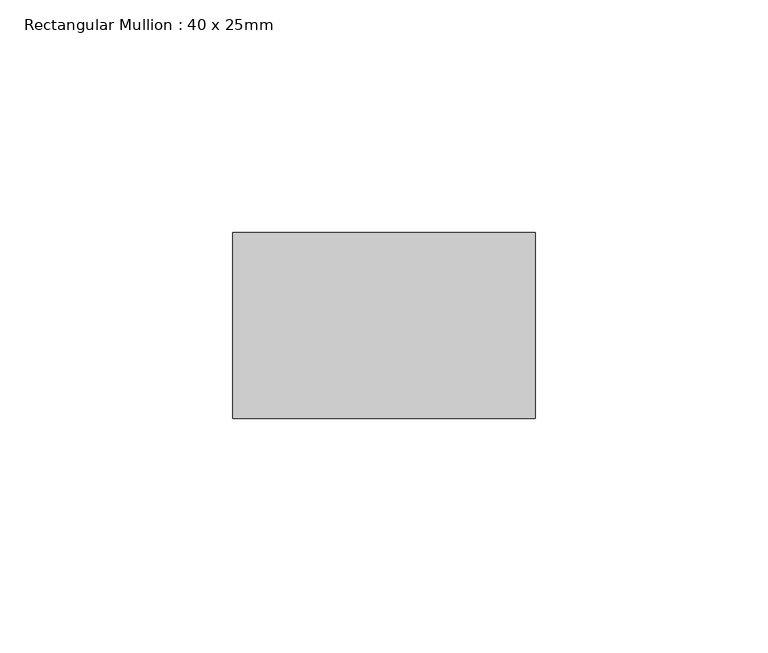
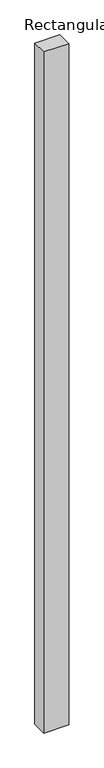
"""IFC4 building model written with IfcOpenShell, lengths in millimetres: member geometry, Rectangular Mullion : 40 x 25mm."""

from ifc_helpers import new_model, si_unit, frame, origin, place, context, project, spatial, polyline, outline, extrude, source, transform, mapped, element, save


def rectangular_mullion_40_x_25mm_437aedbd(model_context):
    return source(origin(), model_context, "Body", "SweptSolid", [
        extrude(outline(polyline([(0.0, -20.0), (0.0, -60.0), (-65.0, -60.0), (-65.0, -20.0), (0.0, -20.0)])), frame((0.0, 0.0, -1881.8), z_axis=(0.0, 0.0, 1.0), x_axis=(1.0, 0.0, 0.0)), (0.0, 0.0, 1.0), 1881.8),
    ])


if __name__ == "__main__":
    model = new_model("IFC4")
    model_context = context("Model", 3, world=origin())
    ifc_project = project(units=[si_unit("LENGTHUNIT", "METRE", prefix="MILLI")], contexts=[model_context])
    site = spatial("IfcSite", under=ifc_project)
    building = spatial("IfcBuilding", under=site)
    placement = place(None, origin())
    rectangular_mullion_40_x_25mm_shape = rectangular_mullion_40_x_25mm_437aedbd(model_context)
    element("IfcMember", 1, ObjectType="Rectangular Mullion : 40 x 25mm", at=placement, inside=building, context=model_context, shape_type="MappedRepresentation", body=[
        mapped(rectangular_mullion_40_x_25mm_shape, transform((0.0, 0.0, 0.0), x_axis=(1.0, 0.0, 0.0), y_axis=(0.0, 1.0, 0.0), z_axis=(0.0, 0.0, 1.0))),
    ])
    save(model, "model.ifc")
